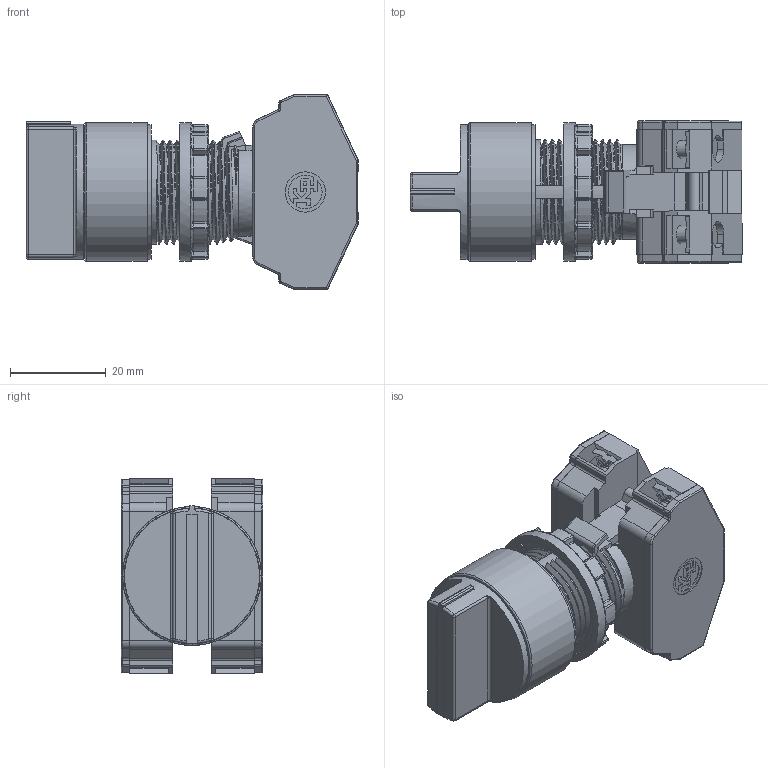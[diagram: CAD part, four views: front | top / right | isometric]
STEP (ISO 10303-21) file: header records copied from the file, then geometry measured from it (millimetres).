
FILE_DESCRIPTION(('Seletor Compacto com Manopla R22 3 Posicoes sem Retorno 1NA+1NF ou 2NA ou 2NF'),'2;1');
FILE_NAME('K:\Workfolder\Bibl\3DWeb\Serie\C9\kp_c9_c9sn3_2Cont_step.stp','2011-04-02T14:56:17',('DIE'),('KAP'),'Autodesk Inventor 2011','Autodesk Inventor 2011','Direitos reservados. Proibido reproducao, cedencia ou revelacao de conteudo a terceiros, salvo com autorizacao. ');
FILE_SCHEMA(('AUTOMOTIVE_DESIGN { 1 0 10303 214 1 1 1 1 }'));
Length unit declared in the file: millimetre
Products named in the file (3): C9SN3_2Cont; C9SN3; C9AB_2Cont
Assembly tree (2 placements, depth 2):
  C9SN3_2Cont
    C9SN3
    C9AB_2Cont
Bounding box: 69.3 x 29.6 x 40.6 mm (x, y, z)
Volume: 37152.6 mm3; surface area: 17684 mm2
Topology: 3 solids, 10 shells, 1761 faces, 4789 edges, 2981 vertices
Faces by surface type: plane 948, cylinder 504, torus 128, bspline 86, sphere 61, cone 34
Full cylindrical faces by diameter (mm): 2.8 x4, 3 x4, 3.1 x4, 3.3 x4, 3.5 x4, 3.7 x4, 5.5 x1, 5.8 x1, 8.4 x1, 8.6 x1, 9 x1, 21.85 x1, 22 x1, 22.491 x3, 26 x1, 27.1 x1, 27.5 x1, 28 x1, 28.2 x1, 29 x2
Entity records: 60904 total; most frequent: CARTESIAN_POINT 15154, ORIENTED_EDGE 9294, DIRECTION 9090, EDGE_CURVE 4647, AXIS2_PLACEMENT_3D 3058, VECTOR 2974, LINE 2974, VERTEX_POINT 2955
